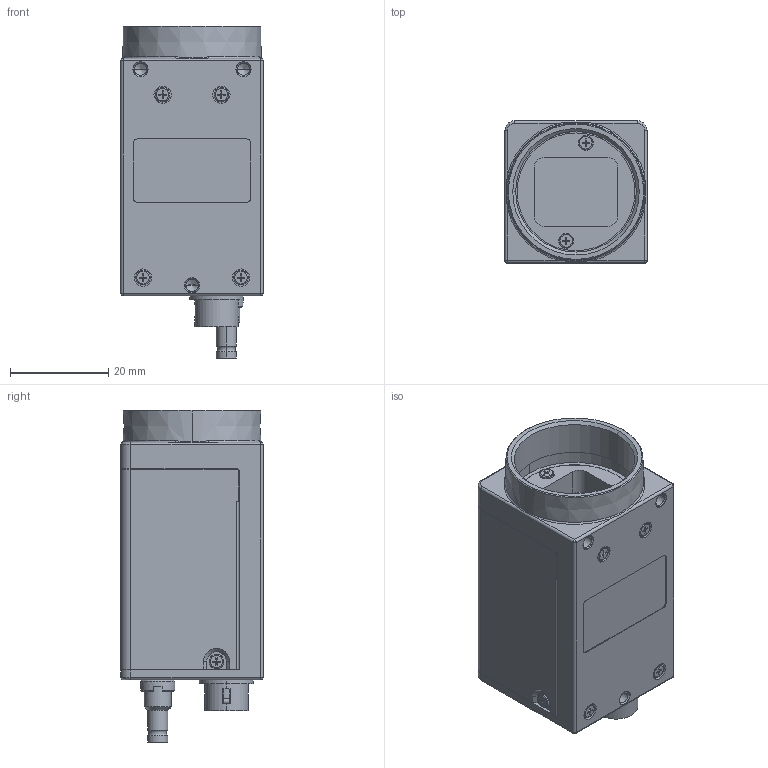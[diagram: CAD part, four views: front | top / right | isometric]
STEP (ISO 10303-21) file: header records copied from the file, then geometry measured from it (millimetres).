
FILE_DESCRIPTION((''),'2;1');
FILE_NAME('GOX-5105M-CXP_MOCK','2021-10-20T14:20:51',('aso'),(''),'CREO PARAMETRIC BY PTC INC, 2019352','CREO PARAMETRIC BY PTC INC, 2019352','');
FILE_SCHEMA(('AUTOMOTIVE_DESIGN { 1 0 10303 214 1 1 1 1 }'));
Length unit declared in the file: millimetre
Products named in the file (1): GOX-5105M-CXP_MOCK
Bounding box: 29 x 29 x 67.7 mm (x, y, z)
Volume: 38085.9 mm3; surface area: 10969.8 mm2
Topology: 1 solids, 7 shells, 510 faces, 1311 edges, 828 vertices
Faces by surface type: plane 254, cylinder 140, cone 66, torus 28, sphere 14, bspline 8
Entity records: 19517 total; most frequent: CARTESIAN_POINT 3243, DIRECTION 2705, ORIENTED_EDGE 2558, EDGE_CURVE 1289, AXIS2_PLACEMENT_3D 957, VERTEX_POINT 828, VECTOR 791, LINE 791
